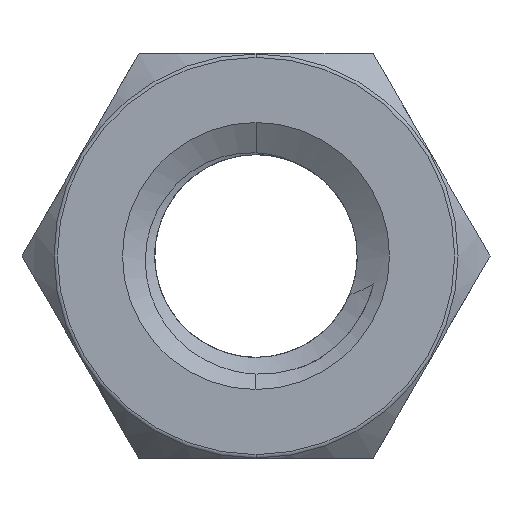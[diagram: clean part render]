
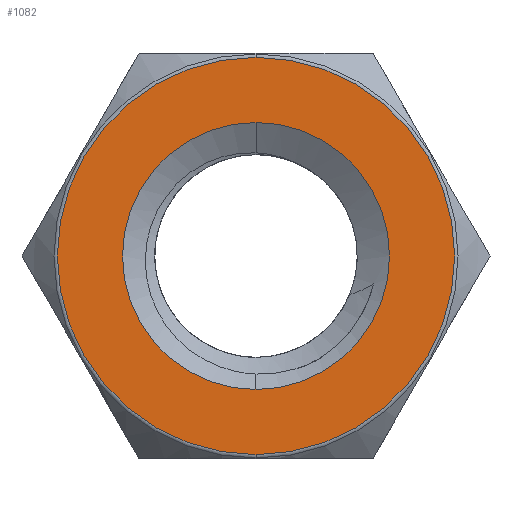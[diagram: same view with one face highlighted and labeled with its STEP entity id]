
A CAD part, front view. The second image highlights one B-rep face of the part: STEP entity #1082.
In plain terms, the highlighted planar face has unit normal (0, -1, 0).
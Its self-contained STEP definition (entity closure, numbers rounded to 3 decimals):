
#48 = ORIENTED_EDGE ( 'NONE', *, *, #3595, .F. ) ;
#79 = DIRECTION ( 'NONE',  ( 0., 0., 1. ) ) ;
#142 = EDGE_LOOP ( 'NONE', ( #1860, #1189 ) ) ;
#254 = CIRCLE ( 'NONE', #3717, 8.332 ) ;
#342 = DIRECTION ( 'NONE',  ( 0., 0., 1. ) ) ;
#584 = CARTESIAN_POINT ( 'NONE',  ( 0., -3.5, 0. ) ) ;
#657 = CARTESIAN_POINT ( 'NONE',  ( 0., -3.5, 8.332 ) ) ;
#1045 = DIRECTION ( 'NONE',  ( 0., 0., -1. ) ) ;
#1082 = ADVANCED_FACE ( 'NONE', ( #3634, #3328 ), #3571, .F. ) ;
#1131 = CARTESIAN_POINT ( 'NONE',  ( 0., -3.5, 0. ) ) ;
#1189 = ORIENTED_EDGE ( 'NONE', *, *, #1751, .T. ) ;
#1292 = CARTESIAN_POINT ( 'NONE',  ( 0., -3.5, 0. ) ) ;
#1567 = DIRECTION ( 'NONE',  ( 0., -1., 0. ) ) ;
#1751 = EDGE_CURVE ( 'NONE', #1890, #2224, #3587, .T. ) ;
#1783 = DIRECTION ( 'NONE',  ( 0., 1., 0. ) ) ;
#1860 = ORIENTED_EDGE ( 'NONE', *, *, #3330, .T. ) ;
#1890 = VERTEX_POINT ( 'NONE', #3684 ) ;
#2004 = CARTESIAN_POINT ( 'NONE',  ( 0., -3.5, -5.6 ) ) ;
#2091 = AXIS2_PLACEMENT_3D ( 'NONE', #2841, #3710, #1045 ) ;
#2224 = VERTEX_POINT ( 'NONE', #657 ) ;
#2230 = DIRECTION ( 'NONE',  ( 0., -1., 0. ) ) ;
#2280 = EDGE_CURVE ( 'NONE', #3082, #2833, #2601, .T. ) ;
#2398 = CARTESIAN_POINT ( 'NONE',  ( 0., -3.5, 0. ) ) ;
#2409 = AXIS2_PLACEMENT_3D ( 'NONE', #1131, #3216, #3517 ) ;
#2562 = AXIS2_PLACEMENT_3D ( 'NONE', #584, #1783, #342 ) ;
#2601 = CIRCLE ( 'NONE', #3212, 5.6 ) ;
#2770 = EDGE_LOOP ( 'NONE', ( #48, #2808 ) ) ;
#2808 = ORIENTED_EDGE ( 'NONE', *, *, #2280, .F. ) ;
#2820 = CARTESIAN_POINT ( 'NONE',  ( 0., -3.5, 5.6 ) ) ;
#2833 = VERTEX_POINT ( 'NONE', #2820 ) ;
#2841 = CARTESIAN_POINT ( 'NONE',  ( 0., -3.5, 0. ) ) ;
#2916 = CIRCLE ( 'NONE', #2091, 5.6 ) ;
#3061 = DIRECTION ( 'NONE',  ( 0., 0., -1. ) ) ;
#3082 = VERTEX_POINT ( 'NONE', #2004 ) ;
#3212 = AXIS2_PLACEMENT_3D ( 'NONE', #1292, #2230, #3061 ) ;
#3216 = DIRECTION ( 'NONE',  ( 0., -1., 0. ) ) ;
#3328 = FACE_BOUND ( 'NONE', #2770, .T. ) ;
#3330 = EDGE_CURVE ( 'NONE', #2224, #1890, #254, .T. ) ;
#3517 = DIRECTION ( 'NONE',  ( 0., 0., 1. ) ) ;
#3571 = PLANE ( 'NONE',  #2562 ) ;
#3587 = CIRCLE ( 'NONE', #2409, 8.332 ) ;
#3595 = EDGE_CURVE ( 'NONE', #2833, #3082, #2916, .T. ) ;
#3634 = FACE_OUTER_BOUND ( 'NONE', #142, .T. ) ;
#3684 = CARTESIAN_POINT ( 'NONE',  ( 0., -3.5, -8.332 ) ) ;
#3710 = DIRECTION ( 'NONE',  ( 0., -1., 0. ) ) ;
#3717 = AXIS2_PLACEMENT_3D ( 'NONE', #2398, #1567, #79 ) ;
